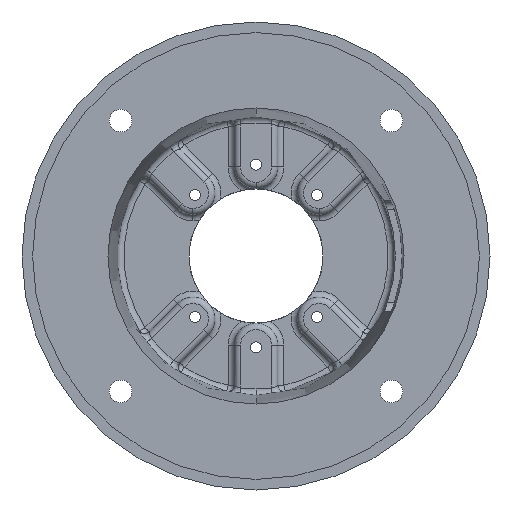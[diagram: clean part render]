
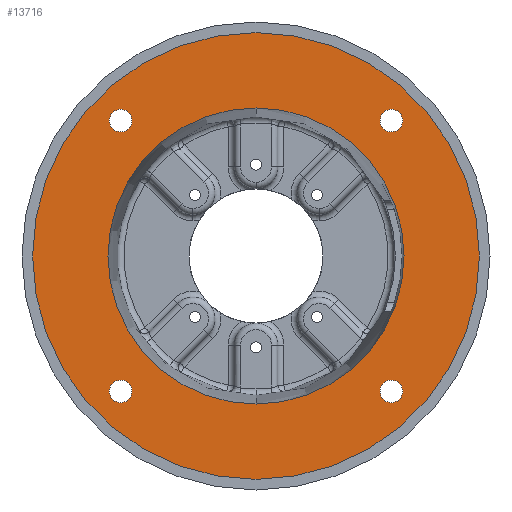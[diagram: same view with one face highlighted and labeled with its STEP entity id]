
A CAD part, front view. The second image highlights one B-rep face of the part: STEP entity #13716.
In plain terms, the highlighted planar face has unit normal (0, -1, 0).
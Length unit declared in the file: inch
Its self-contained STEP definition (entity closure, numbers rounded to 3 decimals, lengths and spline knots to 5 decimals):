
#71 = EDGE_LOOP ( 'NONE', ( #8035, #12953 ) ) ;
#111 = FACE_BOUND ( 'NONE', #2358, .T. ) ;
#183 = VERTEX_POINT ( 'NONE', #7743 ) ;
#258 = DIRECTION ( 'NONE',  ( 0., 0., -1. ) ) ;
#270 = VERTEX_POINT ( 'NONE', #7270 ) ;
#437 = CARTESIAN_POINT ( 'NONE',  ( -3.18198, 0.18, 3.18198 ) ) ;
#452 = CIRCLE ( 'NONE', #11159, 3.47973 ) ;
#739 = CARTESIAN_POINT ( 'NONE',  ( 3.18198, 0.18, -3.18198 ) ) ;
#995 = ORIENTED_EDGE ( 'NONE', *, *, #12206, .T. ) ;
#1124 = ORIENTED_EDGE ( 'NONE', *, *, #12801, .T. ) ;
#1470 = ORIENTED_EDGE ( 'NONE', *, *, #6991, .T. ) ;
#1548 = DIRECTION ( 'NONE',  ( 0., 0., -1. ) ) ;
#1604 = EDGE_CURVE ( 'NONE', #4471, #4885, #3598, .T. ) ;
#1693 = DIRECTION ( 'NONE',  ( 0., 1., 0. ) ) ;
#1846 = DIRECTION ( 'NONE',  ( 0., 0., -1. ) ) ;
#1852 = VERTEX_POINT ( 'NONE', #4239 ) ;
#1861 = CARTESIAN_POINT ( 'NONE',  ( 0., 0.18, 0. ) ) ;
#2184 = CIRCLE ( 'NONE', #9419, 5.2505 ) ;
#2358 = EDGE_LOOP ( 'NONE', ( #12018, #7860 ) ) ;
#2632 = EDGE_LOOP ( 'NONE', ( #6050, #12822 ) ) ;
#2660 = DIRECTION ( 'NONE',  ( 0., -1., 0. ) ) ;
#2670 = VERTEX_POINT ( 'NONE', #3899 ) ;
#2672 = FACE_BOUND ( 'NONE', #71, .T. ) ;
#2688 = EDGE_LOOP ( 'NONE', ( #995, #1124 ) ) ;
#2780 = ORIENTED_EDGE ( 'NONE', *, *, #5824, .F. ) ;
#3123 = CARTESIAN_POINT ( 'NONE',  ( -3.18198, 0.18, -3.18198 ) ) ;
#3139 = ORIENTED_EDGE ( 'NONE', *, *, #1604, .F. ) ;
#3166 = CIRCLE ( 'NONE', #3580, 0.26562 ) ;
#3192 = AXIS2_PLACEMENT_3D ( 'NONE', #10906, #4413, #11942 ) ;
#3200 = CIRCLE ( 'NONE', #5683, 5.2505 ) ;
#3335 = CARTESIAN_POINT ( 'NONE',  ( 3.18198, 0.18, -2.91636 ) ) ;
#3344 = CIRCLE ( 'NONE', #8510, 0.26562 ) ;
#3452 = DIRECTION ( 'NONE',  ( 0., -1., 0. ) ) ;
#3547 = EDGE_CURVE ( 'NONE', #9836, #2670, #6188, .T. ) ;
#3580 = AXIS2_PLACEMENT_3D ( 'NONE', #9971, #3452, #11023 ) ;
#3598 = CIRCLE ( 'NONE', #9048, 0.26562 ) ;
#3795 = VERTEX_POINT ( 'NONE', #11762 ) ;
#3899 = CARTESIAN_POINT ( 'NONE',  ( 0., 0.18, -3.47973 ) ) ;
#4077 = DIRECTION ( 'NONE',  ( 0., -1., 0. ) ) ;
#4218 = DIRECTION ( 'NONE',  ( 0., 0., -1. ) ) ;
#4239 = CARTESIAN_POINT ( 'NONE',  ( -3.18198, 0.18, 2.91636 ) ) ;
#4410 = VERTEX_POINT ( 'NONE', #11344 ) ;
#4413 = DIRECTION ( 'NONE',  ( 0., -1., 0. ) ) ;
#4471 = VERTEX_POINT ( 'NONE', #6147 ) ;
#4508 = VERTEX_POINT ( 'NONE', #5088 ) ;
#4829 = CARTESIAN_POINT ( 'NONE',  ( 0., 0.18, 0. ) ) ;
#4885 = VERTEX_POINT ( 'NONE', #6987 ) ;
#5083 = VERTEX_POINT ( 'NONE', #3335 ) ;
#5088 = CARTESIAN_POINT ( 'NONE',  ( -3.18198, 0.18, 3.44761 ) ) ;
#5116 = DIRECTION ( 'NONE',  ( 0., -1., 0. ) ) ;
#5326 = CARTESIAN_POINT ( 'NONE',  ( 0., 0.18, 0. ) ) ;
#5370 = EDGE_LOOP ( 'NONE', ( #1470, #13040 ) ) ;
#5522 = VERTEX_POINT ( 'NONE', #10161 ) ;
#5569 = FACE_BOUND ( 'NONE', #2632, .T. ) ;
#5683 = AXIS2_PLACEMENT_3D ( 'NONE', #9182, #2660, #10279 ) ;
#5824 = EDGE_CURVE ( 'NONE', #4885, #4471, #13607, .T. ) ;
#5922 = DIRECTION ( 'NONE',  ( 0., 0., -1. ) ) ;
#6050 = ORIENTED_EDGE ( 'NONE', *, *, #9536, .F. ) ;
#6147 = CARTESIAN_POINT ( 'NONE',  ( -3.18198, 0.18, -3.44761 ) ) ;
#6188 = CIRCLE ( 'NONE', #7179, 3.47973 ) ;
#6438 = EDGE_CURVE ( 'NONE', #1852, #4508, #9688, .T. ) ;
#6450 = DIRECTION ( 'NONE',  ( 0., 0., -1. ) ) ;
#6772 = AXIS2_PLACEMENT_3D ( 'NONE', #739, #8383, #1846 ) ;
#6809 = DIRECTION ( 'NONE',  ( 0., -1., 0. ) ) ;
#6814 = EDGE_CURVE ( 'NONE', #4410, #3795, #6948, .T. ) ;
#6948 = CIRCLE ( 'NONE', #3192, 0.26562 ) ;
#6987 = CARTESIAN_POINT ( 'NONE',  ( -3.18198, 0.18, -2.91636 ) ) ;
#6991 = EDGE_CURVE ( 'NONE', #2670, #9836, #452, .T. ) ;
#6997 = AXIS2_PLACEMENT_3D ( 'NONE', #1861, #5116, #12651 ) ;
#7179 = AXIS2_PLACEMENT_3D ( 'NONE', #8232, #1693, #9306 ) ;
#7270 = CARTESIAN_POINT ( 'NONE',  ( 0., 0.18, -5.2505 ) ) ;
#7743 = CARTESIAN_POINT ( 'NONE',  ( 3.18198, 0.18, -3.44761 ) ) ;
#7860 = ORIENTED_EDGE ( 'NONE', *, *, #9767, .F. ) ;
#7946 = AXIS2_PLACEMENT_3D ( 'NONE', #3123, #10717, #4218 ) ;
#8035 = ORIENTED_EDGE ( 'NONE', *, *, #6438, .F. ) ;
#8086 = DIRECTION ( 'NONE',  ( 0., -1., 0. ) ) ;
#8143 = FACE_BOUND ( 'NONE', #5370, .T. ) ;
#8232 = CARTESIAN_POINT ( 'NONE',  ( 0., 0.18, 0. ) ) ;
#8383 = DIRECTION ( 'NONE',  ( 0., -1., 0. ) ) ;
#8510 = AXIS2_PLACEMENT_3D ( 'NONE', #13171, #6809, #258 ) ;
#8850 = AXIS2_PLACEMENT_3D ( 'NONE', #437, #8086, #1548 ) ;
#9048 = AXIS2_PLACEMENT_3D ( 'NONE', #13085, #12227, #12183 ) ;
#9182 = CARTESIAN_POINT ( 'NONE',  ( 0., 0.18, 0. ) ) ;
#9306 = DIRECTION ( 'NONE',  ( 0., 0., -1. ) ) ;
#9419 = AXIS2_PLACEMENT_3D ( 'NONE', #4829, #12360, #5922 ) ;
#9470 = CIRCLE ( 'NONE', #11926, 0.26562 ) ;
#9536 = EDGE_CURVE ( 'NONE', #3795, #4410, #3344, .T. ) ;
#9688 = CIRCLE ( 'NONE', #8850, 0.26562 ) ;
#9767 = EDGE_CURVE ( 'NONE', #5083, #183, #9984, .T. ) ;
#9836 = VERTEX_POINT ( 'NONE', #12717 ) ;
#9965 = EDGE_CURVE ( 'NONE', #4508, #1852, #3166, .T. ) ;
#9971 = CARTESIAN_POINT ( 'NONE',  ( -3.18198, 0.18, 3.18198 ) ) ;
#9984 = CIRCLE ( 'NONE', #6772, 0.26562 ) ;
#10161 = CARTESIAN_POINT ( 'NONE',  ( 0., 0.18, 5.2505 ) ) ;
#10279 = DIRECTION ( 'NONE',  ( 0., 0., -1. ) ) ;
#10580 = CARTESIAN_POINT ( 'NONE',  ( 3.18198, 0.18, -3.18198 ) ) ;
#10717 = DIRECTION ( 'NONE',  ( 0., -1., 0. ) ) ;
#10906 = CARTESIAN_POINT ( 'NONE',  ( 3.18198, 0.18, 3.18198 ) ) ;
#11001 = FACE_OUTER_BOUND ( 'NONE', #2688, .T. ) ;
#11023 = DIRECTION ( 'NONE',  ( 0., 0., -1. ) ) ;
#11159 = AXIS2_PLACEMENT_3D ( 'NONE', #5326, #12839, #6450 ) ;
#11344 = CARTESIAN_POINT ( 'NONE',  ( 3.18198, 0.18, 3.44761 ) ) ;
#11548 = PLANE ( 'NONE',  #6997 ) ;
#11615 = DIRECTION ( 'NONE',  ( 0., 0., -1. ) ) ;
#11762 = CARTESIAN_POINT ( 'NONE',  ( 3.18198, 0.18, 2.91636 ) ) ;
#11926 = AXIS2_PLACEMENT_3D ( 'NONE', #10580, #4077, #11615 ) ;
#11942 = DIRECTION ( 'NONE',  ( 0., 0., -1. ) ) ;
#11995 = EDGE_LOOP ( 'NONE', ( #3139, #2780 ) ) ;
#12018 = ORIENTED_EDGE ( 'NONE', *, *, #13213, .F. ) ;
#12183 = DIRECTION ( 'NONE',  ( 0., 0., -1. ) ) ;
#12206 = EDGE_CURVE ( 'NONE', #270, #5522, #2184, .T. ) ;
#12227 = DIRECTION ( 'NONE',  ( 0., -1., 0. ) ) ;
#12360 = DIRECTION ( 'NONE',  ( 0., -1., 0. ) ) ;
#12651 = DIRECTION ( 'NONE',  ( 0., 0., -1. ) ) ;
#12717 = CARTESIAN_POINT ( 'NONE',  ( 0., 0.18, 3.47973 ) ) ;
#12801 = EDGE_CURVE ( 'NONE', #5522, #270, #3200, .T. ) ;
#12822 = ORIENTED_EDGE ( 'NONE', *, *, #6814, .F. ) ;
#12839 = DIRECTION ( 'NONE',  ( 0., 1., 0. ) ) ;
#12953 = ORIENTED_EDGE ( 'NONE', *, *, #9965, .F. ) ;
#13040 = ORIENTED_EDGE ( 'NONE', *, *, #3547, .T. ) ;
#13085 = CARTESIAN_POINT ( 'NONE',  ( -3.18198, 0.18, -3.18198 ) ) ;
#13171 = CARTESIAN_POINT ( 'NONE',  ( 3.18198, 0.18, 3.18198 ) ) ;
#13213 = EDGE_CURVE ( 'NONE', #183, #5083, #9470, .T. ) ;
#13607 = CIRCLE ( 'NONE', #7946, 0.26562 ) ;
#13716 = ADVANCED_FACE ( 'NONE', ( #2672, #5569, #111, #13742, #11001, #8143 ), #11548, .T. ) ;
#13742 = FACE_BOUND ( 'NONE', #11995, .T. ) ;
